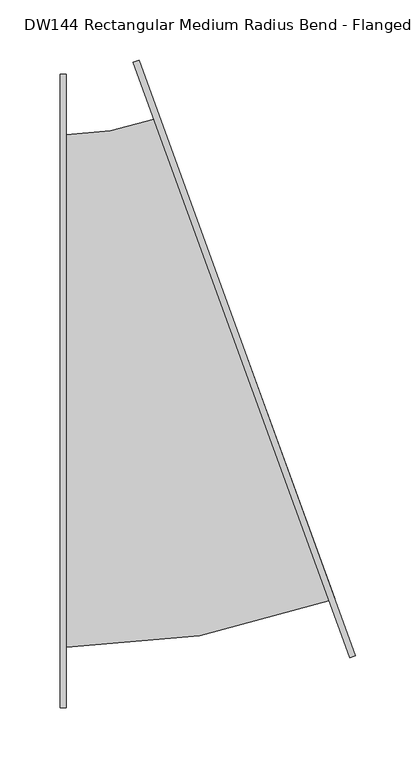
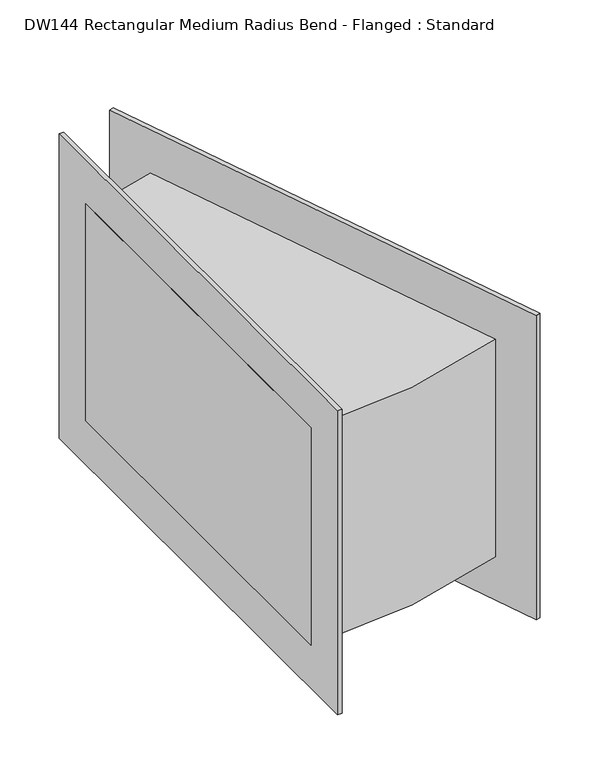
"""IFC4 building model written with IfcOpenShell, lengths in millimetres: duct fitting geometry, DW144 Rectangular Medium Radius Bend - Flanged : Standard."""

import ifcopenshell
import ifcopenshell.guid

model = None  # the IFC model being written
_history = None  # IfcOwnerHistory: only IFC2X3 demands one
_inside = {}  # id of a spatial element -> (the spatial element, [elements in it])
_under = {}  # id of a project, library or spatial element -> (it, [spatial elements below it])
_declared = {}  # id of a project -> (the project, [libraries it declares])
_typed = {}  # id of a type object -> (the type object, [elements of that type])
_made_of = {}  # id of a material, layer set ... -> (it, [elements and type objects made of it])


def new_model(schema):
    """Start an empty IFC model of exactly this schema.

    Asked for "IFC4X3", IfcOpenShell would pick the latest addendum, in which some entities
    have other attributes; the version numbers below select the first issue.
    IFC2X3 requires an IfcOwnerHistory on every rooted entity: one is made here for all.
    """
    global model, _history
    if schema == "IFC4X3":
        model = ifcopenshell.file(schema_version=(4, 3, 0, 0))
    else:
        model = ifcopenshell.file(schema=schema)
    _inside.clear()
    _under.clear()
    _declared.clear()
    _typed.clear()
    _made_of.clear()
    _history = None
    if model.schema == "IFC2X3":
        org = make("IfcOrganization", Name="unknown")
        user = make(
            "IfcPersonAndOrganization",
            ThePerson=make("IfcPerson", FamilyName="unknown"),
            TheOrganization=org,
        )
        app = make(
            "IfcApplication",
            ApplicationDeveloper=org,
            Version="unknown",
            ApplicationFullName="unknown",
            ApplicationIdentifier="unknown",
        )
        _history = make(
            "IfcOwnerHistory",
            OwningUser=user,
            OwningApplication=app,
            ChangeAction="ADDED",
            CreationDate=0,
        )
    return model


def make(cls, **values):
    """One entity of the class cls with the attributes given. An attribute that is None is left unset."""
    return model.create_entity(
        cls, **{name: value for name, value in values.items() if value is not None}
    )


def rooted(cls, **values):
    """An entity with a GlobalId (a new one), such as an element, a storey or a relation."""
    return make(cls, GlobalId=ifcopenshell.guid.new(), OwnerHistory=_history, **values)


def si_unit(unit_type, name, prefix=None):
    """IfcSIUnit, for example si_unit("LENGTHUNIT", "METRE", prefix="MILLI")."""
    return make("IfcSIUnit", UnitType=unit_type, Prefix=prefix, Name=name)


def assignment(units):
    """IfcUnitAssignment: the units of a project."""
    return None if units is None else make("IfcUnitAssignment", Units=units)


def point(xyz):
    """IfcCartesianPoint."""
    return None if xyz is None else make("IfcCartesianPoint", Coordinates=xyz)


def direction(xyz):
    """IfcDirection."""
    return None if xyz is None else make("IfcDirection", DirectionRatios=xyz)


def frame(location, z_axis=None, x_axis=None):
    """IfcAxis2Placement3D, a coordinate frame: its origin and axes. An axis left out is left unset."""
    return make(
        "IfcAxis2Placement3D",
        Location=point(location),
        Axis=direction(z_axis),
        RefDirection=direction(x_axis),
    )


def frame_2d(location, x_axis=None):
    """IfcAxis2Placement2D, a coordinate frame in the plane: its origin and x axis."""
    return make(
        "IfcAxis2Placement2D", Location=point(location), RefDirection=direction(x_axis)
    )


def origin():
    """The frame at (0, 0, 0) with its axes left unset."""
    return frame((0.0, 0.0, 0.0))


def place(relative_to, where):
    """IfcLocalPlacement: puts the frame where relative to a parent placement (None: the world)."""
    return make(
        "IfcLocalPlacement", PlacementRelTo=relative_to, RelativePlacement=where
    )


def context(
    kind, dimensions, precision=None, world=None, true_north=None, identifier=None
):
    """IfcGeometricRepresentationContext, for example the 3D "Model" context."""
    return make(
        "IfcGeometricRepresentationContext",
        ContextIdentifier=identifier,
        ContextType=kind,
        CoordinateSpaceDimension=dimensions,
        Precision=precision,
        WorldCoordinateSystem=world,
        TrueNorth=true_north,
    )


def project(units=None, contexts=None):
    """IfcProject with its units and contexts."""
    return rooted(
        "IfcProject",
        Name="project",
        RepresentationContexts=contexts,
        UnitsInContext=assignment(units),
    )


def spatial(cls, under=None, at=None, **own):
    """A site, building, storey or space (cls), placed at a placement, below another one or the project."""
    s = rooted(cls, ObjectPlacement=at, **own)
    if under is not None:
        _under.setdefault(under.id(), (under, []))[1].append(s)
    return s


def polyline(points):
    """IfcPolyline through the points."""
    return make("IfcPolyline", Points=[point(p) for p in points])


def circle_curve(where, radius):
    """IfcCircle in the frame where."""
    return make("IfcCircle", Position=where, Radius=radius)


def trimmed(basis, trim1, trim2, sense, master):
    """IfcTrimmedCurve: the piece of a basis curve between two trims."""
    return make(
        "IfcTrimmedCurve",
        BasisCurve=basis,
        Trim1=trim1,
        Trim2=trim2,
        SenseAgreement=sense,
        MasterRepresentation=master,
    )


def segment(curve, same_sense, transition):
    """IfcCompositeCurveSegment."""
    return make(
        "IfcCompositeCurveSegment",
        Transition=transition,
        SameSense=same_sense,
        ParentCurve=curve,
    )


def composite_curve(segments, self_intersect=None):
    """IfcCompositeCurve: segments joined end to end."""
    return make("IfcCompositeCurve", Segments=segments, SelfIntersect=self_intersect)


def outline(outer, holes=None, kind="AREA"):
    """IfcArbitraryClosedProfileDef: a profile drawn as a closed curve; with holes, ...WithVoids."""
    if holes is None:
        return make("IfcArbitraryClosedProfileDef", ProfileType=kind, OuterCurve=outer)
    return make(
        "IfcArbitraryProfileDefWithVoids",
        ProfileType=kind,
        OuterCurve=outer,
        InnerCurves=holes,
    )


def extrude(swept, where, along, depth):
    """IfcExtrudedAreaSolid: the profile swept, set in the frame where, extruded along a direction by depth."""
    return make(
        "IfcExtrudedAreaSolid",
        SweptArea=swept,
        Position=where,
        ExtrudedDirection=direction(along),
        Depth=depth,
    )


def shape(context_of_items, identifier, shape_type, items):
    """IfcShapeRepresentation: the items that make up one representation, for example the "Body"."""
    return make(
        "IfcShapeRepresentation",
        ContextOfItems=context_of_items,
        RepresentationIdentifier=identifier,
        RepresentationType=shape_type,
        Items=items,
    )


def source(mapping_origin, context_of_items, identifier, shape_type, items):
    """IfcRepresentationMap: a shape defined once, which mapped items show again and again."""
    return make(
        "IfcRepresentationMap",
        MappingOrigin=mapping_origin,
        MappedRepresentation=shape(context_of_items, identifier, shape_type, items),
    )


def transform(
    local_origin,
    x_axis=None,
    y_axis=None,
    z_axis=None,
    scale=None,
    scale2=None,
    scale3=None,
    uniform=True,
):
    """IfcCartesianTransformationOperator3D, or its non-uniform kind. x_axis, y_axis, z_axis: its Axis1, 2, 3."""
    if uniform:
        return make(
            "IfcCartesianTransformationOperator3D",
            Axis1=direction(x_axis),
            Axis2=direction(y_axis),
            LocalOrigin=point(local_origin),
            Scale=scale,
            Axis3=direction(z_axis),
        )
    return make(
        "IfcCartesianTransformationOperator3DnonUniform",
        Axis1=direction(x_axis),
        Axis2=direction(y_axis),
        LocalOrigin=point(local_origin),
        Scale=scale,
        Axis3=direction(z_axis),
        Scale2=scale2,
        Scale3=scale3,
    )


def mapped(mapping_source, mapping_target):
    """IfcMappedItem: shows the shape of a source again, moved by a transform."""
    return make(
        "IfcMappedItem", MappingSource=mapping_source, MappingTarget=mapping_target
    )


def made_of(thing, what):
    """Note that an element or type object is made of a material, layer set ...; save() writes the relation."""
    if what is not None:
        _made_of.setdefault(what.id(), (what, []))[1].append(thing)
    return thing


def element(
    cls,
    number,
    at=None,
    inside=None,
    cuts=None,
    type_object=None,
    material=None,
    context=None,
    identifier="Body",
    shape_type=None,
    held_by="IfcProductDefinitionShape",
    body=None,
    shapes=None,
    **own,
):
    """One element of the class cls, such as IfcWall. Its Tag is "e" and its number.

    at: its placement. inside: the storey or other place that contains it. cuts: it is an
    opening in that element (IfcRelVoidsElement). A single representation is given by context,
    identifier, shape_type and body (its items); several are given by shapes. held_by: the class
    of the entity that holds the representations. save() writes the other relations.
    """
    e = rooted(cls, Tag="e%d" % number, ObjectPlacement=at, **own)
    if body is not None:
        shapes = [shape(context, identifier, shape_type, body)]
    if shapes is not None:
        e.Representation = make(held_by, Representations=shapes)
    if inside is not None:
        _inside.setdefault(inside.id(), (inside, []))[1].append(e)
    if cuts is not None:
        rooted(
            "IfcRelVoidsElement", RelatingBuildingElement=cuts, RelatedOpeningElement=e
        )
    if type_object is not None:
        _typed.setdefault(type_object.id(), (type_object, []))[1].append(e)
    return made_of(e, material)


def aggregate(whole, parts):
    """IfcRelAggregates: a whole, such as a stair, and the parts it consists of."""
    return rooted("IfcRelAggregates", RelatingObject=whole, RelatedObjects=parts)


def save(model, path):
    """Write the relations noted so far, then the file.

    IfcRelAggregates (storeys below a building ...), IfcRelContainedInSpatialStructure (elements
    in a storey), IfcRelDefinesByType, IfcRelAssociatesMaterial and IfcRelDeclares: one each for
    every whole, place, type object, material and project.
    """
    for whole, parts in _under.values():
        aggregate(whole, parts)
    for where, things in _inside.values():
        rooted(
            "IfcRelContainedInSpatialStructure",
            RelatedElements=things,
            RelatingStructure=where,
        )
    for kind, things in _typed.values():
        rooted("IfcRelDefinesByType", RelatedObjects=things, RelatingType=kind)
    for what, things in _made_of.values():
        rooted("IfcRelAssociatesMaterial", RelatedObjects=things, RelatingMaterial=what)
    for by, libraries in _declared.values():
        rooted("IfcRelDeclares", RelatingContext=by, RelatedDefinitions=libraries)
    model.write(path)


def dw144_rectangular_medium_radius_bend_flanged_standard_1b9ed4ee(model_context):
    return source(origin(), model_context, "Body", "SweptSolid", [
        extrude(outline(composite_curve([segment(polyline([(-79.9389668, -212.5), (-79.9389668, 212.5), (-74.9389668, 212.5)]), True, "CONTINUOUS"), segment(trimmed(circle_curve(frame_2d((-74.9389668, 425.0)), 212.5), [point((-74.9389668, 212.5))], [point((-2.2596863, 225.3153181))], True, "CARTESIAN"), True, "CONTINUOUS"), segment(polyline([(-2.2596863, 225.3153181), (2.4387768, 227.0254188), (147.7973377, -172.343945), (143.0988746, -174.0540458)]), True, "CONTINUOUS"), segment(trimmed(circle_curve(frame_2d((-74.9389668, 425.0)), 637.5), [point((143.0988746, -174.0540458))], [point((-74.9389668, -212.5))], False, "CARTESIAN"), True, "CONTINUOUS"), segment(polyline([(-74.9389668, -212.5), (-79.9389668, -212.5)]), True, "CONTINUOUS")], self_intersect=False)), frame((0.0, 0.0, -125.0), z_axis=(0.0, 0.0, 1.0), x_axis=(1.0, 0.0, 0.0)), (0.0, 0.0, 1.0), 250.0),
        extrude(outline(polyline([(160.1998817, -221.0386768), (-19.3606935, 272.2999491), (-14.6622304, 274.0100498), (164.8983448, -219.3285761), (160.1998817, -221.0386768)])), frame((0.0, 0.0, -175.0), z_axis=(0.0, 0.0, 1.0), x_axis=(1.0, 0.0, 0.0)), (0.0, 0.0, 1.0), 350.0),
        extrude(outline(polyline([(-79.9389668, -262.5), (-79.9389668, 262.5), (-74.9389668, 262.5), (-74.9389668, -262.5), (-79.9389668, -262.5)])), frame((0.0, 0.0, -175.0), z_axis=(0.0, 0.0, 1.0), x_axis=(1.0, 0.0, 0.0)), (0.0, 0.0, 1.0), 350.0),
    ])


if __name__ == "__main__":
    model = new_model("IFC4")
    model_context = context("Model", 3, world=origin())
    ifc_project = project(units=[si_unit("LENGTHUNIT", "METRE", prefix="MILLI")], contexts=[model_context])
    site = spatial("IfcSite", under=ifc_project)
    building = spatial("IfcBuilding", under=site)
    placement = place(None, origin())
    dw144_rectangular_medium_radius_bend_flanged_standard_shape = dw144_rectangular_medium_radius_bend_flanged_standard_1b9ed4ee(model_context)
    element("IfcDuctFitting", 1, ObjectType="DW144 Rectangular Medium Radius Bend - Flanged : Standard", at=placement, inside=building, context=model_context, shape_type="MappedRepresentation", body=[
        mapped(dw144_rectangular_medium_radius_bend_flanged_standard_shape, transform((0.0, 0.0, 0.0), x_axis=(1.0, 0.0, 0.0), y_axis=(0.0, 1.0, 0.0), z_axis=(0.0, 0.0, 1.0))),
    ])
    save(model, "model.ifc")
